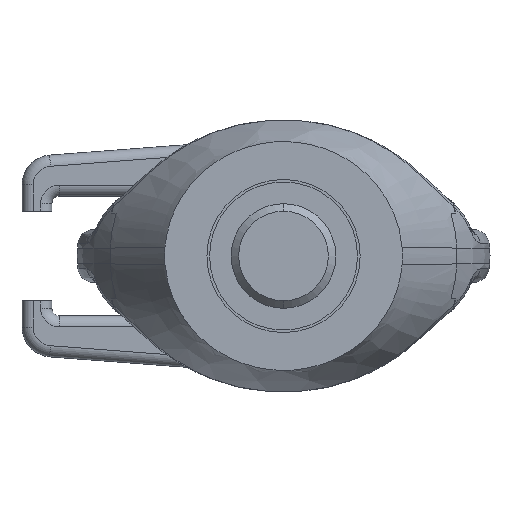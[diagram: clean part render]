
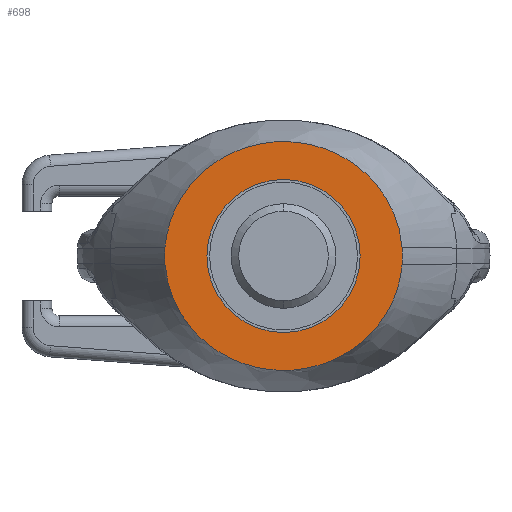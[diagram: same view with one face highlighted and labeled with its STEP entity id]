
A CAD part, front view. The second image highlights one B-rep face of the part: STEP entity #698.
In plain terms, the highlighted planar face has unit normal (0, -1, 0).
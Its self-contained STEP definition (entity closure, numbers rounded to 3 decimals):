
#698=ADVANCED_FACE('',(#1669,#1670),#1671,.T.);
#1669=FACE_OUTER_BOUND('',#6941,.T.);
#1670=FACE_BOUND('',#6942,.T.);
#1671=PLANE('',#6943);
#6941=EDGE_LOOP('',(#9819,#9820,#9821,#9822));
#6942=EDGE_LOOP('',(#9823,#9824));
#6943=AXIS2_PLACEMENT_3D('',#9825,#9826,#9827);
#9819=ORIENTED_EDGE('',*,*,#12364,.T.);
#9820=ORIENTED_EDGE('',*,*,#12657,.T.);
#9821=ORIENTED_EDGE('',*,*,#12379,.T.);
#9822=ORIENTED_EDGE('',*,*,#12658,.T.);
#9823=ORIENTED_EDGE('',*,*,#12396,.T.);
#9824=ORIENTED_EDGE('',*,*,#12159,.T.);
#9825=CARTESIAN_POINT('',(0.0,-26.5,0.0));
#9826=DIRECTION('',(0.0,-1.0,0.0));
#9827=DIRECTION('',(0.0,0.0,-1.0));
#12159=EDGE_CURVE('',#13660,#13657,#13661,.F.);
#12364=EDGE_CURVE('',#14045,#14043,#14046,.T.);
#12379=EDGE_CURVE('',#14073,#14074,#14075,.T.);
#12396=EDGE_CURVE('',#13657,#13660,#14106,.F.);
#12657=EDGE_CURVE('',#14043,#14073,#14443,.T.);
#12658=EDGE_CURVE('',#14074,#14045,#14444,.T.);
#13657=VERTEX_POINT('',#15931);
#13660=VERTEX_POINT('',#15935);
#13661=CIRCLE('',#15936,10.25);
#14043=VERTEX_POINT('',#18516);
#14045=VERTEX_POINT('',#18614);
#14046=B_SPLINE_CURVE_WITH_KNOTS('',3,(#18615,#18616,#18617,#18618,#18619,#18620,#18621,#18622,#18623,#18624,#18625,#18626,#18627,#18628,#18629,#18630,#18631,#18632),.UNSPECIFIED.,.F.,.F.,(4,2,2,2,2,2,2,2,4),(0.,0.331,0.574,0.86,1.152,1.443,1.729,1.972,2.303),.UNSPECIFIED.);
#14073=VERTEX_POINT('',#18972);
#14074=VERTEX_POINT('',#18973);
#14075=B_SPLINE_CURVE_WITH_KNOTS('',3,(#18974,#18975,#18976,#18977,#18978,#18979,#18980,#18981,#18982,#18983,#18984,#18985,#18986,#18987,#18988,#18989,#18990,#18991),.UNSPECIFIED.,.F.,.F.,(4,2,2,2,2,2,2,2,4),(-2.303,-1.973,-1.729,-1.443,-1.152,-0.861,-0.575,-0.331,0.),.UNSPECIFIED.);
#14106=CIRCLE('',#19458,10.25);
#14443=CIRCLE('',#21655,12.613);
#14444=CIRCLE('',#21656,12.613);
#15931=CARTESIAN_POINT('',(0.,-26.5,-10.25));
#15935=CARTESIAN_POINT('',(0.,-26.5,10.25));
#15936=AXIS2_PLACEMENT_3D('',#23768,#23769,#23770);
#18516=CARTESIAN_POINT('',(-15.865,-26.5,1.174));
#18614=CARTESIAN_POINT('',(15.865,-26.5,1.174));
#18615=CARTESIAN_POINT('',(15.865,-26.5,1.174));
#18616=CARTESIAN_POINT('',(15.762,-26.5,2.271));
#18617=CARTESIAN_POINT('',(15.527,-26.5,4.108));
#18618=CARTESIAN_POINT('',(13.733,-26.5,7.917));
#18619=CARTESIAN_POINT('',(12.69,-26.5,9.386));
#18620=CARTESIAN_POINT('',(9.936,-26.5,12.123));
#18621=CARTESIAN_POINT('',(8.164,-26.5,13.288));
#18622=CARTESIAN_POINT('',(4.253,-26.5,14.893));
#18623=CARTESIAN_POINT('',(2.132,-26.5,15.307));
#18624=CARTESIAN_POINT('',(-2.128,-26.5,15.308));
#18625=CARTESIAN_POINT('',(-4.249,-26.5,14.894));
#18626=CARTESIAN_POINT('',(-8.16,-26.5,13.29));
#18627=CARTESIAN_POINT('',(-9.932,-26.5,12.125));
#18628=CARTESIAN_POINT('',(-12.688,-26.5,9.389));
#18629=CARTESIAN_POINT('',(-13.732,-26.5,7.919));
#18630=CARTESIAN_POINT('',(-15.526,-26.5,4.11));
#18631=CARTESIAN_POINT('',(-15.762,-26.5,2.272));
#18632=CARTESIAN_POINT('',(-15.865,-26.5,1.174));
#18972=CARTESIAN_POINT('',(-15.865,-26.5,-1.174));
#18973=CARTESIAN_POINT('',(15.865,-26.5,-1.174));
#18974=CARTESIAN_POINT('',(-15.865,-26.5,-1.174));
#18975=CARTESIAN_POINT('',(-15.762,-26.5,-2.271));
#18976=CARTESIAN_POINT('',(-15.527,-26.5,-4.108));
#18977=CARTESIAN_POINT('',(-13.733,-26.5,-7.917));
#18978=CARTESIAN_POINT('',(-12.69,-26.5,-9.386));
#18979=CARTESIAN_POINT('',(-9.936,-26.5,-12.123));
#18980=CARTESIAN_POINT('',(-8.164,-26.5,-13.288));
#18981=CARTESIAN_POINT('',(-4.253,-26.5,-14.893));
#18982=CARTESIAN_POINT('',(-2.132,-26.5,-15.307));
#18983=CARTESIAN_POINT('',(2.128,-26.5,-15.308));
#18984=CARTESIAN_POINT('',(4.249,-26.5,-14.894));
#18985=CARTESIAN_POINT('',(8.16,-26.5,-13.29));
#18986=CARTESIAN_POINT('',(9.932,-26.5,-12.125));
#18987=CARTESIAN_POINT('',(12.688,-26.5,-9.389));
#18988=CARTESIAN_POINT('',(13.732,-26.5,-7.919));
#18989=CARTESIAN_POINT('',(15.526,-26.5,-4.11));
#18990=CARTESIAN_POINT('',(15.762,-26.5,-2.272));
#18991=CARTESIAN_POINT('',(15.865,-26.5,-1.174));
#19458=AXIS2_PLACEMENT_3D('',#23962,#23963,#23964);
#21655=AXIS2_PLACEMENT_3D('',#24211,#24212,#24213);
#21656=AXIS2_PLACEMENT_3D('',#24214,#24215,#24216);
#23768=CARTESIAN_POINT('',(0.,-26.5,0.0));
#23769=DIRECTION('',(0.0,-1.0,0.0));
#23770=DIRECTION('',(0.0,0.0,-1.0));
#23962=CARTESIAN_POINT('',(0.,-26.5,0.0));
#23963=DIRECTION('',(0.0,-1.0,0.0));
#23964=DIRECTION('',(0.0,0.0,-1.0));
#24211=CARTESIAN_POINT('',(-3.307,-26.5,0.));
#24212=DIRECTION('',(0.0,-1.0,-0.0));
#24213=DIRECTION('',(-0.996,0.0,-0.093));
#24214=CARTESIAN_POINT('',(3.307,-26.5,0.));
#24215=DIRECTION('',(0.0,-1.0,0.0));
#24216=DIRECTION('',(0.996,0.0,0.093));
